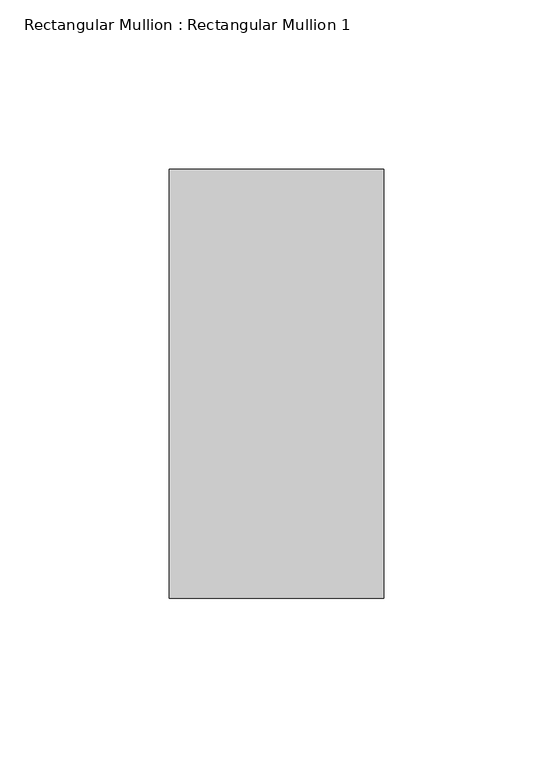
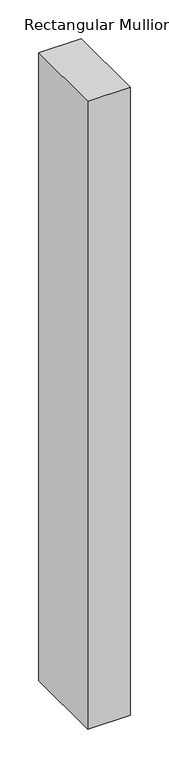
"""IFC4 building model written with IfcOpenShell, lengths in millimetres: member geometry, Rectangular Mullion : Rectangular Mullion 1."""

from ifc_helpers import new_model, si_unit, frame, origin, place, context, project, spatial, polyline, outline, extrude, source, transform, mapped, element, save


def rectangular_mullion_rectangular_mullion_1_6c981bfd(model_context):
    return source(origin(), model_context, "Body", "SweptSolid", [
        extrude(outline(polyline([(0.0, 63.5), (0.0, -63.5), (-63.5, -63.5), (-63.5, 63.5), (0.0, 63.5)])), frame((0.0, 0.0, -992.3193705), z_axis=(0.0, 0.0, 1.0), x_axis=(1.0, 0.0, 0.0)), (0.0, 0.0, 1.0), 992.3193705),
    ])


if __name__ == "__main__":
    model = new_model("IFC4")
    model_context = context("Model", 3, world=origin())
    ifc_project = project(units=[si_unit("LENGTHUNIT", "METRE", prefix="MILLI")], contexts=[model_context])
    site = spatial("IfcSite", under=ifc_project)
    building = spatial("IfcBuilding", under=site)
    placement = place(None, origin())
    rectangular_mullion_rectangular_mullion_1_shape = rectangular_mullion_rectangular_mullion_1_6c981bfd(model_context)
    element("IfcMember", 1, ObjectType="Rectangular Mullion : Rectangular Mullion 1", at=placement, inside=building, context=model_context, shape_type="MappedRepresentation", body=[
        mapped(rectangular_mullion_rectangular_mullion_1_shape, transform((0.0, 0.0, 0.0), x_axis=(1.0, 0.0, 0.0), y_axis=(0.0, 1.0, 0.0), z_axis=(0.0, 0.0, 1.0))),
    ])
    save(model, "model.ifc")
